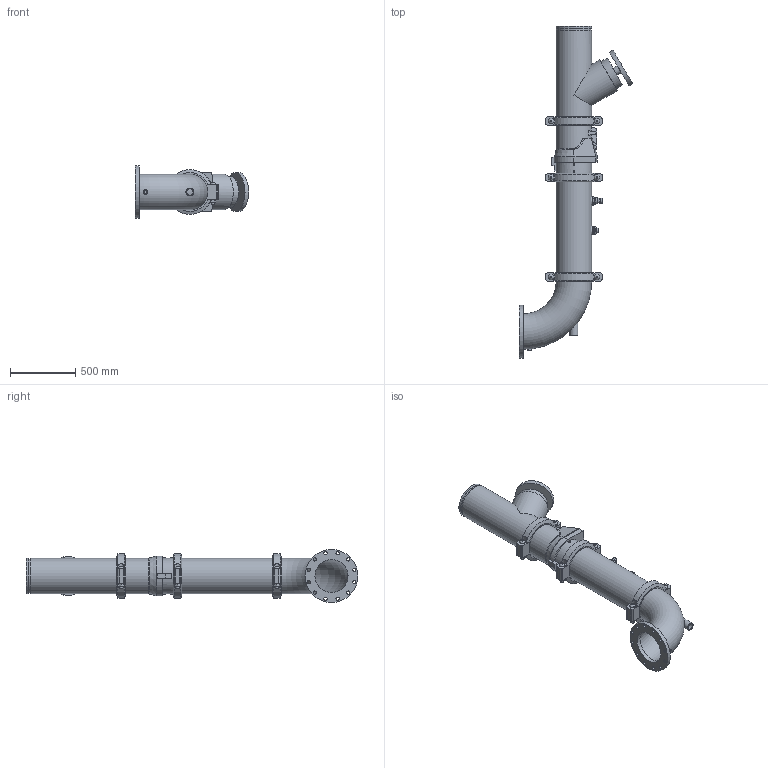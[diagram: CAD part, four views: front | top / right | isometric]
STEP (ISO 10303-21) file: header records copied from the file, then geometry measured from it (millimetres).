
FILE_DESCRIPTION(/* description */ ('VIC DVI PUMP DROP HORZ S/383 (OGSxFLG) (S/924-0.75)','CAx-IF Rec.Pracs.---Representation and Presentation of Product Manufacturing Information (PMI)---4.0---2014-10-13'),/* implementation_level */ '2;1');
FILE_NAME(/* name */ 'C:\Users\Vjadhav\AppData\Roaming\Autodesk\ApplicationPlugins\Victaulic.Temp\A892\Victaulic_IPS_Horizontal DVI_CL 150_Series 383 (OGSxFLG)_924 (0.75)_10.0x10.0 (250x250).stp',/* time_stamp */ '2022-02-28T15:45:56+05:00',/* author */ ('kkamble'),/* organization */ ('Victaulic'),/* preprocessor_version */ 'ST-DEVELOPER v17.2',/* originating_system */ 'Autodesk Inventor 2019',/* authorisation */ '');
FILE_SCHEMA (('AP242_MANAGED_MODEL_BASED_3D_ENGINEERING_MIM_LF { 1 0 10303 442 1 1 4 }'));
Length unit declared in the file: inch
Products named in the file (8): 383-924 (0.75)-10.0x10.0; Pipe-10.0; 789-10.0; 779-10.0; 924-10.0x0.75; 923-10.0x0.75; 100F-10.0; 077-10.0
Assembly tree (9 placements, depth 2):
  383-924 (0.75)-10.0x10.0
    Pipe-10.0
    789-10.0
    779-10.0
    077-10.0  x3
    924-10.0x0.75
    923-10.0x0.75
    100F-10.0
Bounding box: 869.95 x 2551.11 x 406.4 mm (x, y, z)
Volume: 49778685 mm3; surface area: 5970284.5 mm2
Topology: 9 solids, 15 shells, 438 faces, 1081 edges, 739 vertices
Faces by surface type: plane 255, cylinder 149, cone 17, torus 9, bspline 8
Full cylindrical faces by diameter (mm): 13.716 x4, 20.93 x1, 21.336 x1, 25.4 x24, 26.67 x4, 27.432 x6, 34.29 x1, 38.608 x1, 45.974 x4, 48.26 x1, 55.626 x2, 60.96 x2, 76.2 x1, 237.49 x1, 254.508 x5, 264.16 x3, 268.275 x7, 273.05 x18, 299.974 x1, 406.4 x1
Entity records: 10922 total; most frequent: CARTESIAN_POINT 2297, DIRECTION 1765, ORIENTED_EDGE 1582, EDGE_CURVE 791, AXIS2_PLACEMENT_3D 683, VERTEX_POINT 543, EDGE_LOOP 408, LINE 399
